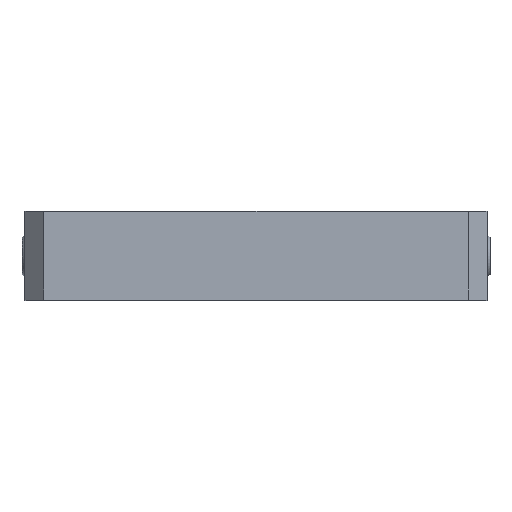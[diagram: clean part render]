
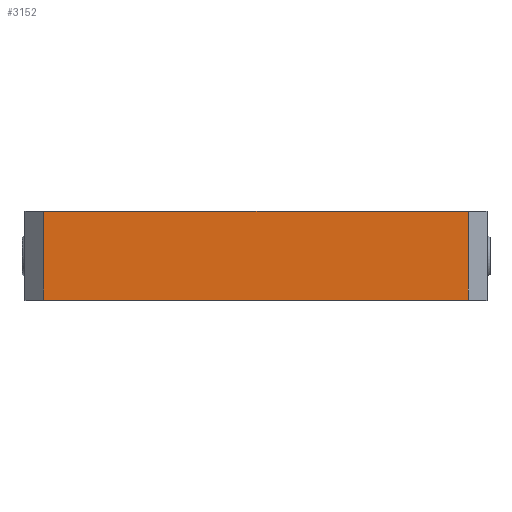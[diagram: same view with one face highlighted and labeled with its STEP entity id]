
A CAD part, top view. The second image highlights one B-rep face of the part: STEP entity #3152.
In plain terms, the highlighted planar face has unit normal (0, 0, 1).
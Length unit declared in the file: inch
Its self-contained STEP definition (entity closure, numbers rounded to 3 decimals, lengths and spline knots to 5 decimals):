
#360 = CARTESIAN_POINT ( 'NONE',  ( -3.07087, 1.1811, 2.48031 ) ) ;
#463 = VERTEX_POINT ( 'NONE', #8797 ) ;
#859 = EDGE_LOOP ( 'NONE', ( #1944, #4742, #3912, #938 ) ) ;
#895 = VERTEX_POINT ( 'NONE', #3272 ) ;
#938 = ORIENTED_EDGE ( 'NONE', *, *, #3038, .T. ) ;
#940 = VECTOR ( 'NONE', #5657, 39.37008 ) ;
#1407 = CARTESIAN_POINT ( 'NONE',  ( -2.82087, 0., 2.48031 ) ) ;
#1481 = DIRECTION ( 'NONE',  ( 0., -1., 0. ) ) ;
#1733 = CARTESIAN_POINT ( 'NONE',  ( 2.82087, 1.1811, 2.48031 ) ) ;
#1944 = ORIENTED_EDGE ( 'NONE', *, *, #2055, .F. ) ;
#2055 = EDGE_CURVE ( 'NONE', #895, #463, #2870, .T. ) ;
#2870 = LINE ( 'NONE', #3509, #940 ) ;
#3038 = EDGE_CURVE ( 'NONE', #6164, #463, #5160, .T. ) ;
#3096 = VECTOR ( 'NONE', #1481, 39.37008 ) ;
#3152 = ADVANCED_FACE ( 'NONE', ( #5873 ), #5919, .F. ) ;
#3272 = CARTESIAN_POINT ( 'NONE',  ( -2.82087, 1.1811, 2.48031 ) ) ;
#3436 = AXIS2_PLACEMENT_3D ( 'NONE', #360, #8649, #5958 ) ;
#3509 = CARTESIAN_POINT ( 'NONE',  ( -3.07087, 1.1811, 2.48031 ) ) ;
#3568 = CARTESIAN_POINT ( 'NONE',  ( -3.07087, 0., 2.48031 ) ) ;
#3832 = DIRECTION ( 'NONE',  ( 0., 1., 0. ) ) ;
#3912 = ORIENTED_EDGE ( 'NONE', *, *, #6268, .T. ) ;
#4742 = ORIENTED_EDGE ( 'NONE', *, *, #7736, .T. ) ;
#4893 = LINE ( 'NONE', #3568, #7035 ) ;
#5160 = LINE ( 'NONE', #1733, #7075 ) ;
#5657 = DIRECTION ( 'NONE',  ( 1., 0., 0. ) ) ;
#5873 = FACE_OUTER_BOUND ( 'NONE', #859, .T. ) ;
#5919 = PLANE ( 'NONE',  #3436 ) ;
#5958 = DIRECTION ( 'NONE',  ( -1., 0., 0. ) ) ;
#6164 = VERTEX_POINT ( 'NONE', #8984 ) ;
#6268 = EDGE_CURVE ( 'NONE', #7159, #6164, #4893, .T. ) ;
#6871 = CARTESIAN_POINT ( 'NONE',  ( -2.82087, 1.1811, 2.48031 ) ) ;
#7035 = VECTOR ( 'NONE', #7661, 39.37008 ) ;
#7075 = VECTOR ( 'NONE', #3832, 39.37008 ) ;
#7159 = VERTEX_POINT ( 'NONE', #1407 ) ;
#7661 = DIRECTION ( 'NONE',  ( 1., 0., 0. ) ) ;
#7736 = EDGE_CURVE ( 'NONE', #895, #7159, #7772, .T. ) ;
#7772 = LINE ( 'NONE', #6871, #3096 ) ;
#8649 = DIRECTION ( 'NONE',  ( 0., 0., -1. ) ) ;
#8797 = CARTESIAN_POINT ( 'NONE',  ( 2.82087, 1.1811, 2.48031 ) ) ;
#8984 = CARTESIAN_POINT ( 'NONE',  ( 2.82087, 0., 2.48031 ) ) ;
